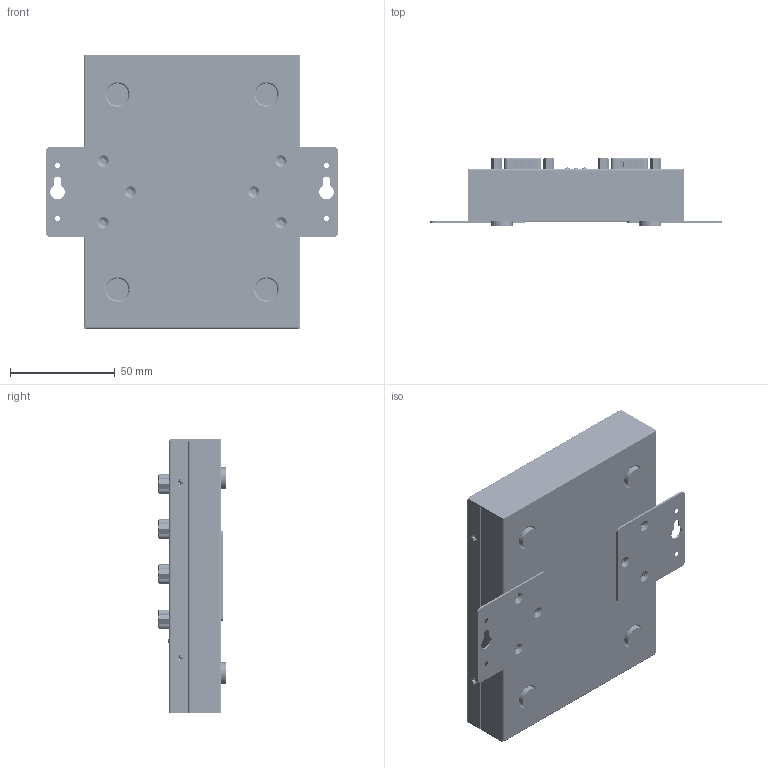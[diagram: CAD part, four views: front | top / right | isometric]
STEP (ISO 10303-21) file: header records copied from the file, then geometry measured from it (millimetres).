
FILE_DESCRIPTION(/* description */ (''),/* implementation_level */ '2;1');
FILE_NAME(/* name */ 'USB2-8COM-M-CAD.step',/* time_stamp */ '2026-09-04T13:25:52-04:00',/* author */ (''),/* organization */ (''),/* preprocessor_version */ 'ST-DEVELOPER v20.1',/* originating_system */ 'Autodesk Translation Framework v15.8.0.0',/* authorisation */ '');
FILE_SCHEMA (('AUTOMOTIVE_DESIGN { 1 0 10303 214 3 1 1 }'));
Products named in the file (4): 2026-09-04-17-19-46-475; 2026-09-04-17-19-46-476; 2026-09-04-17-19-46-477; 2026-09-04-17-19-46-478
Assembly tree (3 placements, depth 2):
  2026-09-04-17-19-46-475
    2026-09-04-17-19-46-476
    2026-09-04-17-19-46-477
    2026-09-04-17-19-46-478
Bounding box: 139.15 x 32 x 130.72 mm (x, y, z)
Volume: 80314.8 mm3; surface area: 130503.4 mm2
Topology: 75 solids, 76 shells, 5497 faces, 14080 edges, 8512 vertices
Faces by surface type: plane 2256, cylinder 2227, bspline 346, cone 283, torus 200, sphere 185
Full cylindrical faces by diameter (mm): 0.9 x72, 1 x144, 1.5 x72, 2.323 x12, 2.345 x16, 2.35 x172, 2.529 x16, 2.998 x17, 3 x253, 3.35 x22, 3.643 x17, 4.4 x16, 5.4 x5, 10.5 x4
Entity records: 250549 total; most frequent: CARTESIAN_POINT 123667, ORIENTED_EDGE 27206, DIRECTION 24789, EDGE_CURVE 13603, AXIS2_PLACEMENT_3D 8784, VERTEX_POINT 8512, LINE 7221, VECTOR 7221
